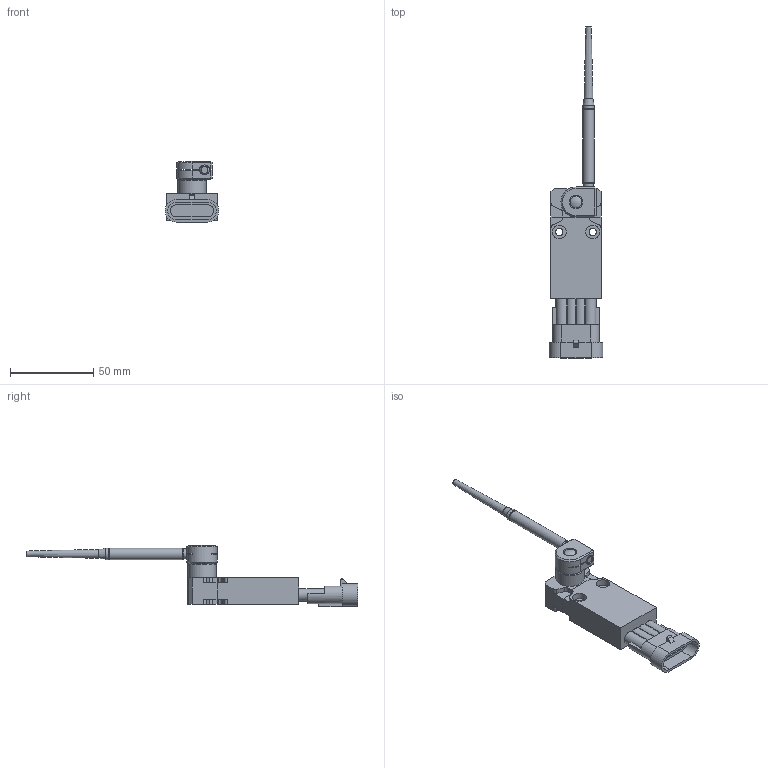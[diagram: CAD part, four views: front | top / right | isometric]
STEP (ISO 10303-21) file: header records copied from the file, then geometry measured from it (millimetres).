
FILE_DESCRIPTION(/* description */ (''),/* implementation_level */ '2;1');
FILE_NAME(/* name */ 'C:\Users\servizio.tecnico\Desktop\CADENAS\3D\EP1_STP\STP_EP1_G61A.stp',/* time_stamp */ '2017-09-04T10:13:05+02:00',/* author */ ('servizio.tecnico'),/* organization */ (''),/* preprocessor_version */ 'ST-DEVELOPER v16.1',/* originating_system */ 'Autodesk Inventor 2016',/* authorisation */ '');
FILE_SCHEMA (('AUTOMOTIVE_DESIGN { 1 0 10303 214 3 1 1 }'));
Length unit declared in the file: millimetre
Products named in the file (3): Product; EP1G61-A; BASE ASSI 
Assembly tree (2 placements, depth 3):
  BASE ASSI 
    EP1G61-A
      Product
Bounding box: 32 x 199 x 37.08 mm (x, y, z)
Volume: 43170.8 mm3; surface area: 17627.2 mm2
Topology: 4 solids, 4 shells, 193 faces, 496 edges, 324 vertices
Faces by surface type: plane 126, cylinder 57, cone 5, torus 4, sphere 1
Full cylindrical faces by diameter (mm): 4.4 x2, 6 x1, 6.8 x2, 7 x1, 8.2 x5, 11 x1, 17 x1
Entity records: 5879 total; most frequent: DIRECTION 998, CARTESIAN_POINT 986, ORIENTED_EDGE 940, EDGE_CURVE 470, LINE 338, VECTOR 338, AXIS2_PLACEMENT_3D 330, VERTEX_POINT 318
